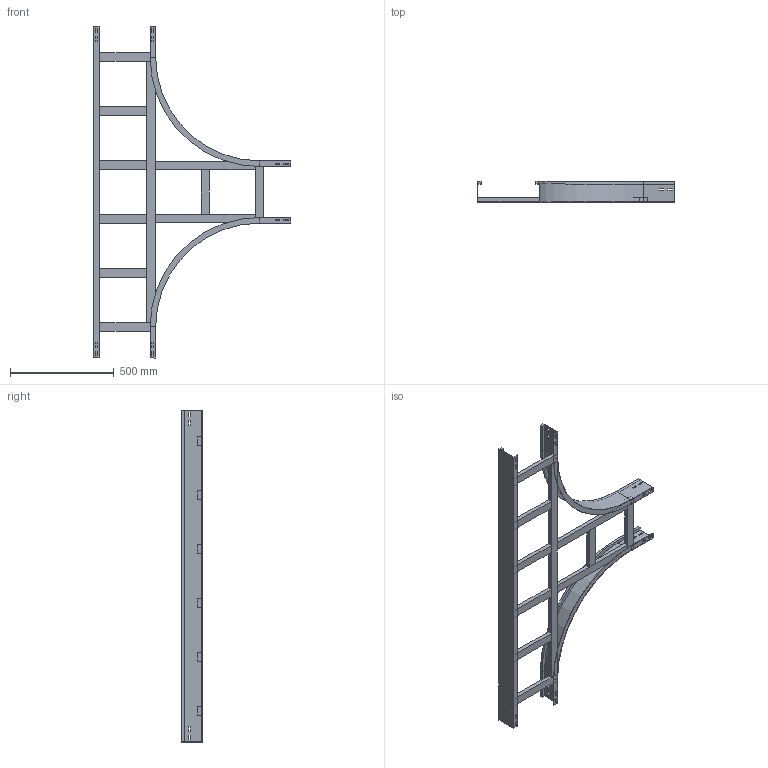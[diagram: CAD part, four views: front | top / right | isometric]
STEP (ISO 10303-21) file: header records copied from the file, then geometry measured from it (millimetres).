
FILE_DESCRIPTION (( 'STEP AP214' ), '1' );
FILE_NAME ('15B5D300.step', '2025-02-21T15:48:57', ( '' ), ( '' ), 'SwSTEP 2.0', 'SolidWorks 2023', '' );
FILE_SCHEMA (( 'AUTOMOTIVE_DESIGN' ));
Length unit declared in the file: millimetre
Products named in the file (8): LONGH.INTERNO 90°_H100_R500; LONGH.RETT_H100_R500+300; TRAVERSINO_VERT_R500; TRAVERSINO_COPPIA_300; TRAVERSINO_LONG._R500+300; 15B5D300; TRAVERSINO_INTERMEDIO_R500+300; TRAVERSINO_300
Assembly tree (14 placements, depth 2):
  15B5D300
    LONGH.INTERNO 90°_H100_R500  x2
    LONGH.RETT_H100_R500+300
    TRAVERSINO_300  x3
    TRAVERSINO_LONG._R500+300
    TRAVERSINO_INTERMEDIO_R500+300  x4
    TRAVERSINO_VERT_R500  x2
    TRAVERSINO_COPPIA_300
Bounding box: 950 x 100 x 1600 mm (x, y, z)
Volume: 5190117.8 mm3; surface area: 1625103.9 mm2
Topology: 14 solids, 14 shells, 224 faces, 556 edges, 360 vertices
Faces by surface type: plane 216, cylinder 8
Entity records: 4209 total; most frequent: CARTESIAN_POINT 695, ORIENTED_EDGE 664, DIRECTION 634, EDGE_CURVE 332, VECTOR 324, LINE 324, VERTEX_POINT 216, EDGE_LOOP 162
